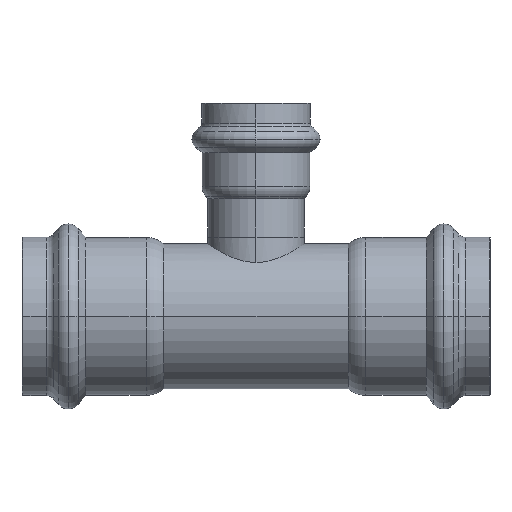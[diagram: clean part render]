
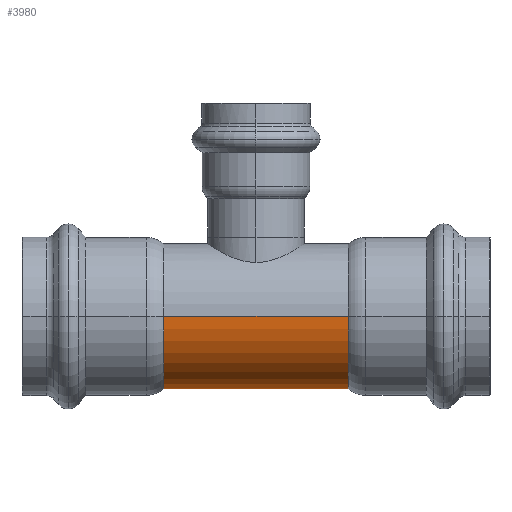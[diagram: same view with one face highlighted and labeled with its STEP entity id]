
A CAD part, left-side view. The second image highlights one B-rep face of the part: STEP entity #3980.
In plain terms, the highlighted cylindrical face has radius 21 mm (diameter 42 mm), a partial arc.
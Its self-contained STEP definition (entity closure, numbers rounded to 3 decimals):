
#2190=CARTESIAN_POINT('',(52.006,36.962,0.));
#2200=VERTEX_POINT('',#2190);
#2290=CARTESIAN_POINT('',(10.006,36.962,0.));
#2300=VERTEX_POINT('',#2290);
#2330=CARTESIAN_POINT('',(31.006,36.962,0.));
#2340=DIRECTION('',(0.,1.,0.));
#2350=DIRECTION('',(-1.,0.,0.));
#2360=AXIS2_PLACEMENT_3D('',#2330,#2340,#2350);
#2370=CIRCLE('',#2360,21.);
#2380=EDGE_CURVE('',#2200,#2300,#2370,.T.);
#2950=CARTESIAN_POINT('',(52.006,-16.638,0.));
#2960=VERTEX_POINT('',#2950);
#3010=CARTESIAN_POINT('',(31.006,-16.638,0.));
#3020=DIRECTION('',(0.,1.,0.));
#3030=DIRECTION('',(-1.,0.,0.));
#3040=AXIS2_PLACEMENT_3D('',#3010,#3020,#3030);
#3050=CIRCLE('',#3040,21.);
#3060=CARTESIAN_POINT('',(10.006,-16.638,0.));
#3070=VERTEX_POINT('',#3060);
#3080=EDGE_CURVE('',#2960,#3070,#3050,.T.);
#3770=CARTESIAN_POINT('',(31.006,10.162,0.));
#3780=DIRECTION('',(0.,1.,0.));
#3790=DIRECTION('',(1.,0.,0.));
#3800=AXIS2_PLACEMENT_3D('',#3770,#3780,#3790);
#3810=CYLINDRICAL_SURFACE('',#3800,21.);
#3820=CARTESIAN_POINT('',(52.006,10.162,0.));
#3830=DIRECTION('',(0.,1.,0.));
#3840=VECTOR('',#3830,1.);
#3850=LINE('',#3820,#3840);
#3860=EDGE_CURVE('',#2960,#2200,#3850,.T.);
#3870=ORIENTED_EDGE('',*,*,#3860,.F.);
#3880=ORIENTED_EDGE('',*,*,#2380,.F.);
#3890=CARTESIAN_POINT('',(10.006,10.162,
0.));
#3900=DIRECTION('',(0.,1.,0.));
#3910=VECTOR('',#3900,1.);
#3920=LINE('',#3890,#3910);
#3930=EDGE_CURVE('',#3070,#2300,#3920,.T.);
#3940=ORIENTED_EDGE('',*,*,#3930,.T.);
#3950=ORIENTED_EDGE('',*,*,#3080,.T.);
#3960=EDGE_LOOP('',(#3950,#3940,#3880,#3870));
#3970=FACE_OUTER_BOUND('',#3960,.T.);
#3980=ADVANCED_FACE('',(#3970),#3810,.T.);
